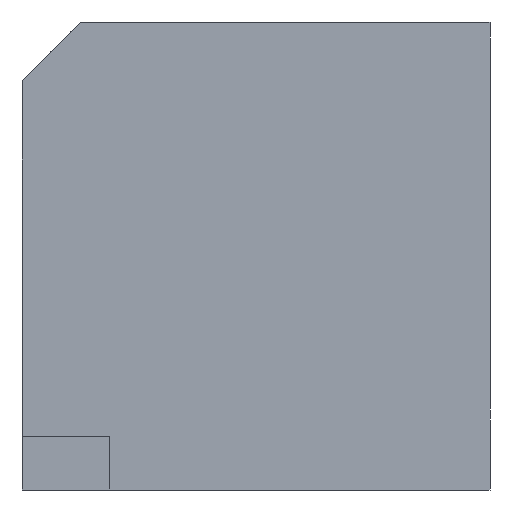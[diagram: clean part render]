
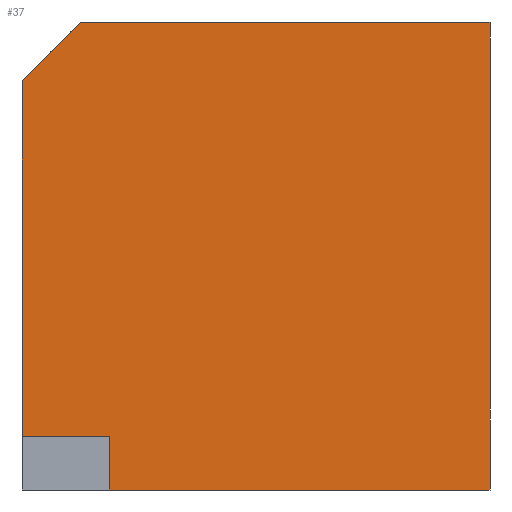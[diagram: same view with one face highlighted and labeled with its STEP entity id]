
A CAD part, left-side view. The second image highlights one B-rep face of the part: STEP entity #37.
In plain terms, the highlighted planar face has unit normal (-1, 0, 0).
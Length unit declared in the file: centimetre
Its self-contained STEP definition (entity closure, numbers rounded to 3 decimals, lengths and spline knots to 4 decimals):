
#34 = DIRECTION ( 'NONE',  ( 0., 1., 0. ) ) ;
#35 = CARTESIAN_POINT ( 'NONE',  ( 0., 813.1718, 0. ) ) ;
#37 = ADVANCED_FACE ( 'NONE', ( #245 ), #620, .F. ) ;
#61 = ORIENTED_EDGE ( 'NONE', *, *, #221, .F. ) ;
#67 = EDGE_CURVE ( 'NONE', #691, #598, #928, .T. ) ;
#109 = VECTOR ( 'NONE', #1119, 100. ) ;
#192 = VECTOR ( 'NONE', #293, 100. ) ;
#196 = EDGE_LOOP ( 'NONE', ( #217, #523, #664, #839, #813, #61, #862 ) ) ;
#216 = CARTESIAN_POINT ( 'NONE',  ( 0., 874.1767, 1000. ) ) ;
#217 = ORIENTED_EDGE ( 'NONE', *, *, #67, .T. ) ;
#221 = EDGE_CURVE ( 'NONE', #858, #339, #663, .T. ) ;
#236 = CARTESIAN_POINT ( 'NONE',  ( 0., 1000., 874.1767 ) ) ;
#244 = CARTESIAN_POINT ( 'NONE',  ( 0., 0., 1000. ) ) ;
#245 = FACE_OUTER_BOUND ( 'NONE', #196, .T. ) ;
#246 = EDGE_CURVE ( 'NONE', #647, #292, #370, .T. ) ;
#269 = DIRECTION ( 'NONE',  ( 0., -1., 0. ) ) ;
#276 = VECTOR ( 'NONE', #1089, 100. ) ;
#287 = CARTESIAN_POINT ( 'NONE',  ( 0., 813.1718, 0. ) ) ;
#292 = VERTEX_POINT ( 'NONE', #857 ) ;
#293 = DIRECTION ( 'NONE',  ( 0., 0.707, -0.707 ) ) ;
#316 = CARTESIAN_POINT ( 'NONE',  ( 0., 813.1718, 114.5219 ) ) ;
#337 = EDGE_CURVE ( 'NONE', #858, #691, #1057, .T. ) ;
#339 = VERTEX_POINT ( 'NONE', #575 ) ;
#370 = LINE ( 'NONE', #939, #109 ) ;
#399 = EDGE_CURVE ( 'NONE', #1193, #598, #700, .T. ) ;
#438 = LINE ( 'NONE', #244, #276 ) ;
#523 = ORIENTED_EDGE ( 'NONE', *, *, #399, .F. ) ;
#530 = VECTOR ( 'NONE', #1195, 100. ) ;
#533 = EDGE_CURVE ( 'NONE', #339, #292, #438, .T. ) ;
#548 = LINE ( 'NONE', #287, #530 ) ;
#555 = CARTESIAN_POINT ( 'NONE',  ( 0., 1000., 1000. ) ) ;
#575 = CARTESIAN_POINT ( 'NONE',  ( 0., 0., 1000. ) ) ;
#598 = VERTEX_POINT ( 'NONE', #904 ) ;
#620 = PLANE ( 'NONE',  #1015 ) ;
#647 = VERTEX_POINT ( 'NONE', #35 ) ;
#663 = LINE ( 'NONE', #555, #859 ) ;
#664 = ORIENTED_EDGE ( 'NONE', *, *, #829, .F. ) ;
#691 = VERTEX_POINT ( 'NONE', #236 ) ;
#700 = LINE ( 'NONE', #978, #1163 ) ;
#813 = ORIENTED_EDGE ( 'NONE', *, *, #533, .F. ) ;
#827 = CARTESIAN_POINT ( 'NONE',  ( 0., 1000., 1000. ) ) ;
#829 = EDGE_CURVE ( 'NONE', #647, #1193, #548, .T. ) ;
#832 = DIRECTION ( 'NONE',  ( 1., 0., 0. ) ) ;
#838 = DIRECTION ( 'NONE',  ( 0., 0., -1. ) ) ;
#839 = ORIENTED_EDGE ( 'NONE', *, *, #246, .T. ) ;
#857 = CARTESIAN_POINT ( 'NONE',  ( 0., 0., 0. ) ) ;
#858 = VERTEX_POINT ( 'NONE', #933 ) ;
#859 = VECTOR ( 'NONE', #269, 100. ) ;
#862 = ORIENTED_EDGE ( 'NONE', *, *, #337, .T. ) ;
#904 = CARTESIAN_POINT ( 'NONE',  ( 0., 1000., 114.5219 ) ) ;
#928 = LINE ( 'NONE', #827, #1032 ) ;
#933 = CARTESIAN_POINT ( 'NONE',  ( 0., 874.1767, 1000. ) ) ;
#939 = CARTESIAN_POINT ( 'NONE',  ( 0., 1000., 0. ) ) ;
#978 = CARTESIAN_POINT ( 'NONE',  ( 0., 813.1718, 114.5219 ) ) ;
#1015 = AXIS2_PLACEMENT_3D ( 'NONE', #1174, #832, #1198 ) ;
#1032 = VECTOR ( 'NONE', #838, 100. ) ;
#1057 = LINE ( 'NONE', #216, #192 ) ;
#1089 = DIRECTION ( 'NONE',  ( 0., 0., -1. ) ) ;
#1119 = DIRECTION ( 'NONE',  ( 0., -1., 0. ) ) ;
#1163 = VECTOR ( 'NONE', #34, 100. ) ;
#1174 = CARTESIAN_POINT ( 'NONE',  ( 0., 1000., 1000. ) ) ;
#1193 = VERTEX_POINT ( 'NONE', #316 ) ;
#1195 = DIRECTION ( 'NONE',  ( 0., 0., 1. ) ) ;
#1198 = DIRECTION ( 'NONE',  ( 0., 0., -1. ) ) ;
